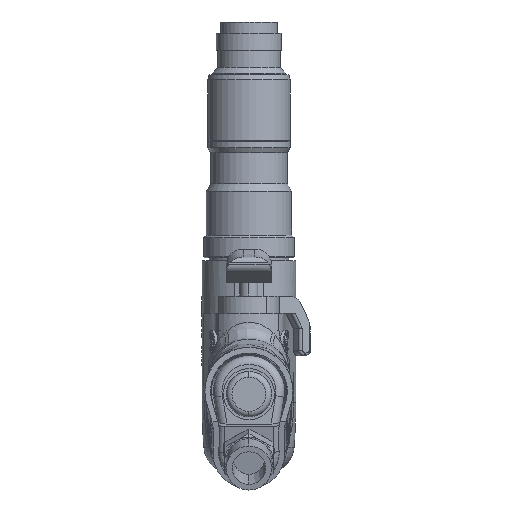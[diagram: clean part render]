
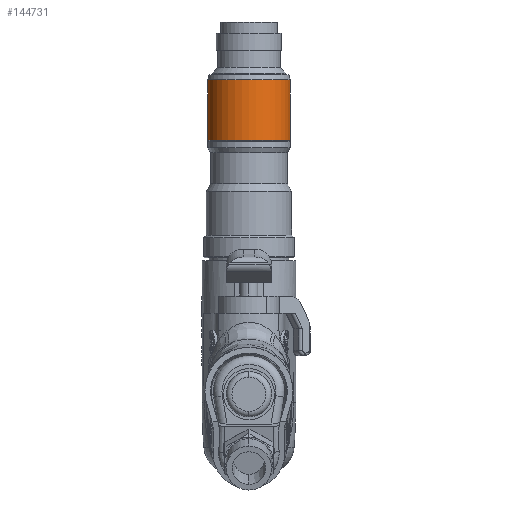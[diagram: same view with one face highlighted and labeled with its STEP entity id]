
A CAD part, front view. The second image highlights one B-rep face of the part: STEP entity #144731.
In plain terms, the highlighted cylindrical face has radius 14.5 mm (diameter 29 mm), a partial arc.
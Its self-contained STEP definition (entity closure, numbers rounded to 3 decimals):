
#106424 = DIRECTION ( 'NONE',  ( 0., 0., 1. ) ) ;
#106425 = VECTOR ( 'NONE', #106424, 1000. ) ;
#106426 = CARTESIAN_POINT ( 'NONE',  ( 14.5, 0., 12.52 ) ) ;
#106427 = LINE ( 'NONE', #106426, #106425 ) ;
#106428 = CARTESIAN_POINT ( 'NONE',  ( 14.5, 0., -10.366 ) ) ;
#106434 = CARTESIAN_POINT ( 'NONE',  ( -14.5, 0., -10.366 ) ) ;
#106435 = DIRECTION ( 'NONE',  ( 0., 0., 1. ) ) ;
#106436 = VECTOR ( 'NONE', #106435, 1000. ) ;
#106437 = CARTESIAN_POINT ( 'NONE',  ( -14.5, 0., 12.52 ) ) ;
#106438 = LINE ( 'NONE', #106437, #106436 ) ;
#106459 = CARTESIAN_POINT ( 'NONE',  ( -14.5, 0., -31.7 ) ) ;
#106519 = CARTESIAN_POINT ( 'NONE',  ( 14.5, 0., -31.7 ) ) ;
#106677 = DIRECTION ( 'NONE',  ( 1., 0., 0. ) ) ;
#106678 = DIRECTION ( 'NONE',  ( 0., 0., 1. ) ) ;
#106679 = CARTESIAN_POINT ( 'NONE',  ( 0., 0., 12.52 ) ) ;
#106680 = AXIS2_PLACEMENT_3D ( 'NONE', #106679, #106678, #106677 ) ;
#106681 = CYLINDRICAL_SURFACE ( 'NONE', #106680, 14.5 ) ;
#106682 = FACE_OUTER_BOUND ( 'NONE', #144732, .T. ) ;
#106683 = DIRECTION ( 'NONE',  ( 1., 0., 0. ) ) ;
#106684 = DIRECTION ( 'NONE',  ( 0., 0., 1. ) ) ;
#106685 = CARTESIAN_POINT ( 'NONE',  ( 0., 0., -10.366 ) ) ;
#106686 = AXIS2_PLACEMENT_3D ( 'NONE', #106685, #106684, #106683 ) ;
#106687 = CIRCLE ( 'NONE', #106686, 14.5 ) ;
#106738 = DIRECTION ( 'NONE',  ( 1., 0., 0. ) ) ;
#106739 = DIRECTION ( 'NONE',  ( 0., 0., 1. ) ) ;
#106740 = CARTESIAN_POINT ( 'NONE',  ( 0., 0., -31.7 ) ) ;
#106741 = AXIS2_PLACEMENT_3D ( 'NONE', #106740, #106739, #106738 ) ;
#106742 = CIRCLE ( 'NONE', #106741, 14.5 ) ;
#144587 = EDGE_CURVE ( 'NONE', #144607, #144588, #106438, .T. ) ;
#144588 = VERTEX_POINT ( 'NONE', #106434 ) ;
#144591 = VERTEX_POINT ( 'NONE', #106428 ) ;
#144593 = EDGE_CURVE ( 'NONE', #144610, #144591, #106427, .T. ) ;
#144607 = VERTEX_POINT ( 'NONE', #106459 ) ;
#144610 = VERTEX_POINT ( 'NONE', #106519 ) ;
#144730 = EDGE_CURVE ( 'NONE', #144588, #144591, #106687, .T. ) ;
#144731 = ADVANCED_FACE ( 'NONE', ( #106682 ), #106681, .T. ) ;
#144732 = EDGE_LOOP ( 'NONE', ( #144733, #144734, #144736, #144737 ) ) ;
#144733 = ORIENTED_EDGE ( 'NONE', *, *, #144587, .F. ) ;
#144734 = ORIENTED_EDGE ( 'NONE', *, *, #144735, .T. ) ;
#144735 = EDGE_CURVE ( 'NONE', #144607, #144610, #106742, .T. ) ;
#144736 = ORIENTED_EDGE ( 'NONE', *, *, #144593, .T. ) ;
#144737 = ORIENTED_EDGE ( 'NONE', *, *, #144730, .F. ) ;
